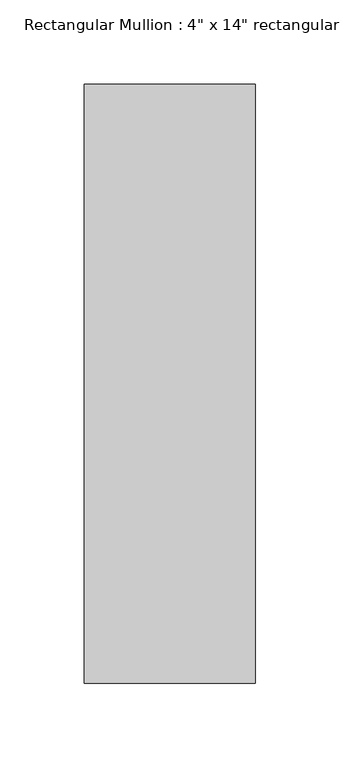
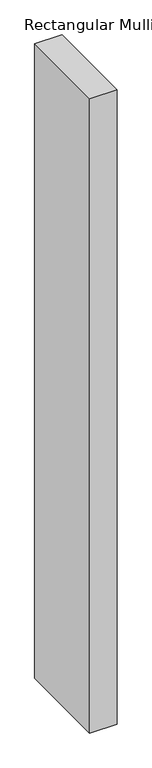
"""IFC4 building model written with IfcOpenShell, lengths in millimetres: member geometry."""

from ifc_helpers import new_model, si_unit, frame, origin, place, context, project, spatial, polyline, outline, extrude, source, transform, mapped, element, save


def member_78a47a59(model_context):
    return source(origin(), model_context, "Body", "SweptSolid", [
        extrude(outline(polyline([(50.8, 342.9), (50.8, -12.7), (-50.8, -12.7), (-50.8, 342.9), (50.8, 342.9)])), frame((0.0, 0.0, -2502.5388232), z_axis=(0.0, 0.0, 1.0), x_axis=(1.0, 0.0, 0.0)), (0.0, 0.0, 1.0), 2502.5388232),
    ])


if __name__ == "__main__":
    model = new_model("IFC4")
    model_context = context("Model", 3, world=origin())
    ifc_project = project(units=[si_unit("LENGTHUNIT", "METRE", prefix="MILLI")], contexts=[model_context])
    site = spatial("IfcSite", under=ifc_project)
    building = spatial("IfcBuilding", under=site)
    placement = place(None, origin())
    member_shape = member_78a47a59(model_context)
    element("IfcMember", 1, ObjectType="Rectangular Mullion : 4\" x 14\" rectangular", at=placement, inside=building, context=model_context, shape_type="MappedRepresentation", body=[
        mapped(member_shape, transform((0.0, 0.0, 0.0), x_axis=(1.0, 0.0, 0.0), y_axis=(0.0, 1.0, 0.0), z_axis=(0.0, 0.0, 1.0))),
    ])
    save(model, "model.ifc")
